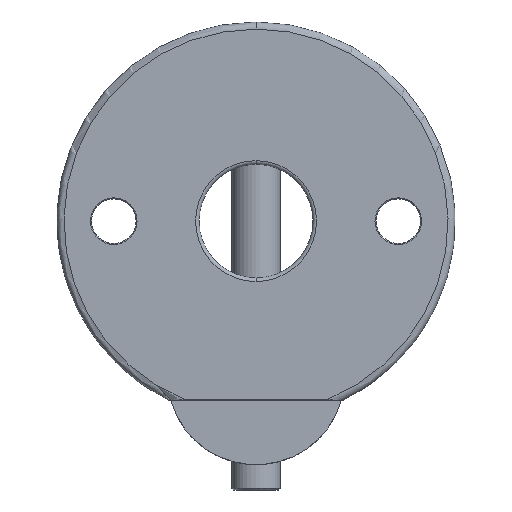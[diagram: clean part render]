
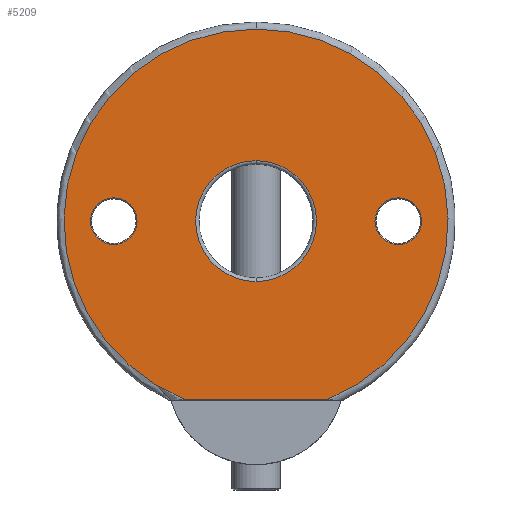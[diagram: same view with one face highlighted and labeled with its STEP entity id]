
A CAD part, front view. The second image highlights one B-rep face of the part: STEP entity #5209.
In plain terms, the highlighted planar face has unit normal (0, -1, 0).
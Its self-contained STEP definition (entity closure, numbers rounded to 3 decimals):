
#143 = FACE_BOUND ( 'NONE', #5629, .T. ) ;
#333 = CARTESIAN_POINT ( 'NONE',  ( 0., 0., 17. ) ) ;
#351 = CIRCLE ( 'NONE', #10525, 6.55 ) ;
#509 = DIRECTION ( 'NONE',  ( 0., 0., 1. ) ) ;
#558 = FACE_BOUND ( 'NONE', #1380, .T. ) ;
#624 = CARTESIAN_POINT ( 'NONE',  ( 16., 0., 0. ) ) ;
#705 = CARTESIAN_POINT ( 'NONE',  ( 0., 0., 0. ) ) ;
#721 = CIRCLE ( 'NONE', #8440, 6.55 ) ;
#781 = ORIENTED_EDGE ( 'NONE', *, *, #8585, .T. ) ;
#983 = DIRECTION ( 'NONE',  ( 0., 1., 0. ) ) ;
#1060 = DIRECTION ( 'NONE',  ( 0., 1., 0. ) ) ;
#1099 = CIRCLE ( 'NONE', #6188, 6.55 ) ;
#1209 = EDGE_LOOP ( 'NONE', ( #3054, #781 ) ) ;
#1352 = EDGE_CURVE ( 'NONE', #3712, #9421, #4113, .T. ) ;
#1380 = EDGE_LOOP ( 'NONE', ( #5065, #3709 ) ) ;
#1427 = VERTEX_POINT ( 'NONE', #2377 ) ;
#1489 = DIRECTION ( 'NONE',  ( 0., 0., 1. ) ) ;
#1581 = DIRECTION ( 'NONE',  ( 0., 0., 1. ) ) ;
#1659 = VERTEX_POINT ( 'NONE', #6014 ) ;
#1931 = CARTESIAN_POINT ( 'NONE',  ( -40., 0., 6.55 ) ) ;
#2069 = DIRECTION ( 'NONE',  ( 0., 1., 0. ) ) ;
#2377 = CARTESIAN_POINT ( 'NONE',  ( 0., 0., 54. ) ) ;
#2632 = ORIENTED_EDGE ( 'NONE', *, *, #10169, .T. ) ;
#3050 = EDGE_LOOP ( 'NONE', ( #9080, #6346, #5290 ) ) ;
#3054 = ORIENTED_EDGE ( 'NONE', *, *, #1352, .T. ) ;
#3145 = DIRECTION ( 'NONE',  ( 0., 1., 0. ) ) ;
#3210 = CARTESIAN_POINT ( 'NONE',  ( 40., 0., -6.55 ) ) ;
#3289 = CIRCLE ( 'NONE', #6232, 17. ) ;
#3398 = CIRCLE ( 'NONE', #8090, 54. ) ;
#3405 = DIRECTION ( 'NONE',  ( 0., 1., 0. ) ) ;
#3709 = ORIENTED_EDGE ( 'NONE', *, *, #10543, .T. ) ;
#3712 = VERTEX_POINT ( 'NONE', #333 ) ;
#3754 = VERTEX_POINT ( 'NONE', #8826 ) ;
#4113 = CIRCLE ( 'NONE', #5670, 17. ) ;
#4151 = CARTESIAN_POINT ( 'NONE',  ( 0., 0., 0. ) ) ;
#4260 = EDGE_CURVE ( 'NONE', #3754, #1427, #3398, .T. ) ;
#4502 = EDGE_CURVE ( 'NONE', #1659, #10007, #721, .T. ) ;
#4786 = EDGE_CURVE ( 'NONE', #5795, #9334, #5884, .T. ) ;
#4861 = FACE_OUTER_BOUND ( 'NONE', #3050, .T. ) ;
#5023 = DIRECTION ( 'NONE',  ( 0., 0., 1. ) ) ;
#5065 = ORIENTED_EDGE ( 'NONE', *, *, #4786, .T. ) ;
#5209 = ADVANCED_FACE ( 'NONE', ( #558, #143, #10324, #4861 ), #8215, .F. ) ;
#5290 = ORIENTED_EDGE ( 'NONE', *, *, #9741, .F. ) ;
#5578 = DIRECTION ( 'NONE',  ( 0., 1., 0. ) ) ;
#5629 = EDGE_LOOP ( 'NONE', ( #7250, #2632 ) ) ;
#5670 = AXIS2_PLACEMENT_3D ( 'NONE', #8242, #3145, #9081 ) ;
#5739 = DIRECTION ( 'NONE',  ( 1., 0., 0. ) ) ;
#5795 = VERTEX_POINT ( 'NONE', #3210 ) ;
#5884 = CIRCLE ( 'NONE', #8764, 6.55 ) ;
#6014 = CARTESIAN_POINT ( 'NONE',  ( -40., 0., -6.55 ) ) ;
#6046 = CARTESIAN_POINT ( 'NONE',  ( -40., 0., 0. ) ) ;
#6120 = CARTESIAN_POINT ( 'NONE',  ( 0., 0., 0. ) ) ;
#6188 = AXIS2_PLACEMENT_3D ( 'NONE', #10682, #5578, #509 ) ;
#6232 = AXIS2_PLACEMENT_3D ( 'NONE', #705, #6617, #1581 ) ;
#6346 = ORIENTED_EDGE ( 'NONE', *, *, #8582, .T. ) ;
#6542 = DIRECTION ( 'NONE',  ( 0., 1., 0. ) ) ;
#6617 = DIRECTION ( 'NONE',  ( 0., 1., 0. ) ) ;
#6891 = DIRECTION ( 'NONE',  ( 0., 0., 1. ) ) ;
#6968 = DIRECTION ( 'NONE',  ( 0., 0., 1. ) ) ;
#7137 = CARTESIAN_POINT ( 'NONE',  ( -40., 0., 0. ) ) ;
#7222 = CARTESIAN_POINT ( 'NONE',  ( 0., 0., -17. ) ) ;
#7250 = ORIENTED_EDGE ( 'NONE', *, *, #4502, .T. ) ;
#7808 = CARTESIAN_POINT ( 'NONE',  ( 40., 0., 6.55 ) ) ;
#7998 = DIRECTION ( 'NONE',  ( 0., 0., 1. ) ) ;
#8090 = AXIS2_PLACEMENT_3D ( 'NONE', #6120, #1060, #6968 ) ;
#8215 = PLANE ( 'NONE',  #9225 ) ;
#8242 = CARTESIAN_POINT ( 'NONE',  ( 0., 0., 0. ) ) ;
#8440 = AXIS2_PLACEMENT_3D ( 'NONE', #6046, #983, #6891 ) ;
#8512 = CARTESIAN_POINT ( 'NONE',  ( 40., 0., 0. ) ) ;
#8582 = EDGE_CURVE ( 'NONE', #3754, #8989, #9688, .T. ) ;
#8585 = EDGE_CURVE ( 'NONE', #9421, #3712, #3289, .T. ) ;
#8764 = AXIS2_PLACEMENT_3D ( 'NONE', #8512, #3405, #9360 ) ;
#8826 = CARTESIAN_POINT ( 'NONE',  ( -19.899, 0., -50.2 ) ) ;
#8989 = VERTEX_POINT ( 'NONE', #9122 ) ;
#9080 = ORIENTED_EDGE ( 'NONE', *, *, #4260, .F. ) ;
#9081 = DIRECTION ( 'NONE',  ( 0., 0., 1. ) ) ;
#9122 = CARTESIAN_POINT ( 'NONE',  ( 19.899, 0., -50.2 ) ) ;
#9225 = AXIS2_PLACEMENT_3D ( 'NONE', #624, #6542, #1489 ) ;
#9334 = VERTEX_POINT ( 'NONE', #7808 ) ;
#9360 = DIRECTION ( 'NONE',  ( 0., 0., 1. ) ) ;
#9421 = VERTEX_POINT ( 'NONE', #7222 ) ;
#9688 = LINE ( 'NONE', #10837, #10243 ) ;
#9741 = EDGE_CURVE ( 'NONE', #1427, #8989, #10330, .T. ) ;
#9869 = AXIS2_PLACEMENT_3D ( 'NONE', #4151, #10123, #5023 ) ;
#10007 = VERTEX_POINT ( 'NONE', #1931 ) ;
#10123 = DIRECTION ( 'NONE',  ( 0., 1., 0. ) ) ;
#10169 = EDGE_CURVE ( 'NONE', #10007, #1659, #351, .T. ) ;
#10243 = VECTOR ( 'NONE', #5739, 1000. ) ;
#10324 = FACE_BOUND ( 'NONE', #1209, .T. ) ;
#10330 = CIRCLE ( 'NONE', #9869, 54. ) ;
#10525 = AXIS2_PLACEMENT_3D ( 'NONE', #7137, #2069, #7998 ) ;
#10543 = EDGE_CURVE ( 'NONE', #9334, #5795, #1099, .T. ) ;
#10682 = CARTESIAN_POINT ( 'NONE',  ( 40., 0., 0. ) ) ;
#10837 = CARTESIAN_POINT ( 'NONE',  ( 19.125, 0., -50.2 ) ) ;
